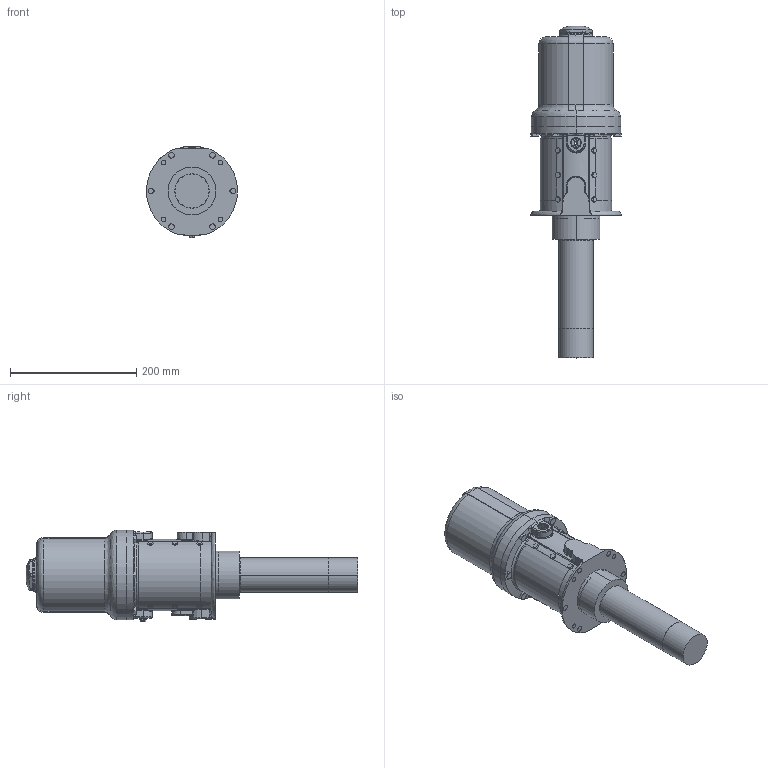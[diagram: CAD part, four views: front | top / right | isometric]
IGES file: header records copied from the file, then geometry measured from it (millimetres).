
Start section:  PTC IGES file: 203876-en-zak.igs
Global section: file name: 203876-en-zak.igs; native system: Creo Parametric by PTC Inc.; preprocessor: 2023424; author: qtmwp1; organization: Unknown; date: 20240322.095616; units: inch
Bounding box: 143.82 x 524.9 x 144.7 mm (x, y, z)
Surface area: 219025.7 mm2 (no closed solid volume)
Topology: 0 solids, 0 shells, 402 faces, 1977 edges, 1977 vertices
Faces by surface type: revolution 209, bspline 193
